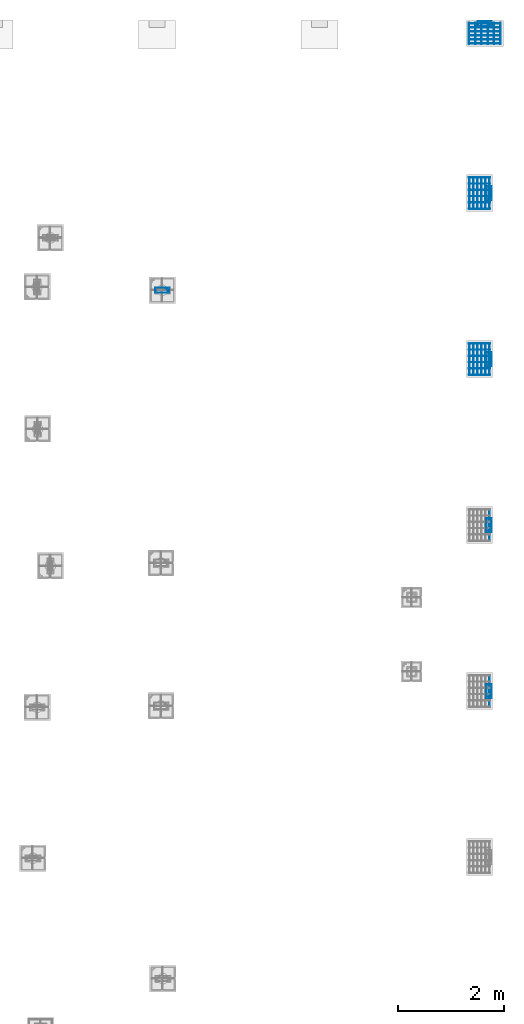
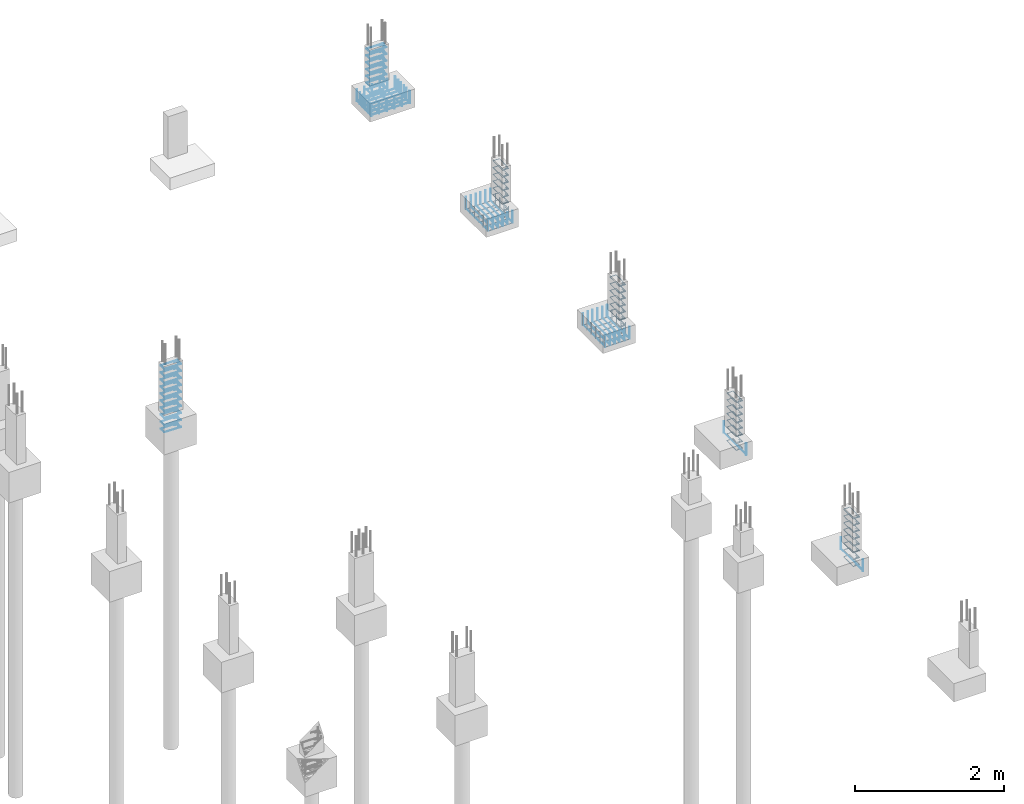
# One storey, part 116 of 119: 88 reinforcing bars.
"""IFC4 building model written with IfcOpenShell, lengths in centimetres."""

from ifc_helpers import new_model, entity, si_unit, derived_unit, frame, origin_with_axes, place, context, project, spatial, source, transform, mapped, element, save


model = new_model("IFC4")

# Units and contexts
model_context = context("Model", 3, precision=1e-05, world=origin_with_axes(), identifier="Body")
ifc_project = project(units=[si_unit("LENGTHUNIT", "METRE", prefix="CENTI"), si_unit("VOLUMEUNIT", "CUBIC_METRE"), si_unit("AREAUNIT", "SQUARE_METRE"), si_unit("POWERUNIT", "WATT"), si_unit("LUMINOUSFLUXUNIT", "LUMEN"), si_unit("ELECTRICCURRENTUNIT", "AMPERE"), si_unit("PRESSUREUNIT", "PASCAL", prefix="KILO"), si_unit("MASSUNIT", "GRAM", prefix="KILO"), si_unit("PLANEANGLEUNIT", "RADIAN"), derived_unit("VOLUMETRICFLOWRATEUNIT", [(si_unit("LENGTHUNIT", "METRE"), 3), (si_unit("TIMEUNIT", "SECOND"), -1)])], contexts=[model_context])

# Site, building, storey
site_placement = place(None, frame((-4000.0, 0.0, 0.0), z_axis=(0.0, 0.0, 1.0), x_axis=(1.0, 0.0, 0.0)))
site = spatial("IfcSite", under=ifc_project, at=site_placement, Name="PADRÃO")
building_placement = place(site_placement, frame((0.0, 0.0, -14.0)))
building = spatial("IfcBuilding", under=site, at=building_placement, Name="CRECHE PRÉ-ESCOLA TIPO 2")
storey_placement = place(building_placement, origin_with_axes())
storey = spatial("IfcBuildingStorey", under=building, at=storey_placement, Name="FUNDAÇÃO", CompositionType="ELEMENT", Elevation=-14.0)

# Reinforcing bars
shared_shape_1 = source(origin_with_axes(), model_context, "Body", "AdvancedSweptSolid", [
    entity("IfcSweptDiskSolid", entity("IfcCompositeCurve", [entity("IfcCompositeCurveSegment", "CONTINUOUS", True, entity("IfcPolyline", [entity("IfcCartesianPoint", [4.25, 21.75, 0.0]), entity("IfcCartesianPoint", [4.25, 27.75, 0.0])])), entity("IfcCompositeCurveSegment", "CONTINUOUS", True, entity("IfcPolyline", [entity("IfcCartesianPoint", [4.25, 27.75, 0.0]), entity("IfcCartesianPoint", [2.25, 27.75, 0.0])])), entity("IfcCompositeCurveSegment", "CONTINUOUS", True, entity("IfcPolyline", [entity("IfcCartesianPoint", [2.25, 27.75, 0.0]), entity("IfcCartesianPoint", [2.25, 2.25, 0.0])])), entity("IfcCompositeCurveSegment", "CONTINUOUS", True, entity("IfcPolyline", [entity("IfcCartesianPoint", [2.25, 2.25, 0.0]), entity("IfcCartesianPoint", [11.75, 2.25, 0.0])])), entity("IfcCompositeCurveSegment", "CONTINUOUS", True, entity("IfcPolyline", [entity("IfcCartesianPoint", [11.75, 2.25, 0.0]), entity("IfcCartesianPoint", [11.75, 27.75, -0.5])])), entity("IfcCompositeCurveSegment", "CONTINUOUS", True, entity("IfcPolyline", [entity("IfcCartesianPoint", [11.75, 27.75, -0.5]), entity("IfcCartesianPoint", [2.25, 27.75, -0.5])])), entity("IfcCompositeCurveSegment", "CONTINUOUS", True, entity("IfcPolyline", [entity("IfcCartesianPoint", [2.25, 27.75, -0.5]), entity("IfcCartesianPoint", [2.25, 25.75, -0.5])])), entity("IfcCompositeCurveSegment", "CONTINUOUS", True, entity("IfcPolyline", [entity("IfcCartesianPoint", [2.25, 25.75, -0.5]), entity("IfcCartesianPoint", [8.25, 25.75, -0.5])]))], False), 0.25),
])
for number, where, z_axis, x_axis, name in (
    (1, (3969.0, 4495.0, -72.3125), (0.0, 0.0, 1.0), (0.0, -1.0, 0.0), "P14 - Estribo"),
    (2, (3969.0, 4495.0, -83.4375), (0.0, 0.0, 1.0), (0.0, -1.0, 0.0), "P14 - Estribo"),
    (3, (3969.0, 4495.0, -61.1875), (0.0, 0.0, 1.0), (0.0, -1.0, 0.0), "P14 - Estribo"),
    (4, (3969.0, 4495.0, -38.9375), (0.0, 0.0, 1.0), (0.0, -1.0, 0.0), "P14 - Estribo"),
    (5, (3969.0, 4495.0, -27.8125), (0.0, 0.0, 1.0), (0.0, -1.0, 0.0), "P14 - Estribo"),
    (6, (3969.0, 4495.0, -16.6875), (0.0, 0.0, 1.0), (0.0, -1.0, 0.0), "P14 - Estribo"),
    (7, (3969.0, 4495.0, -5.5625), (0.0, 0.0, 1.0), (0.0, -1.0, 0.0), "P14 - Estribo"),
    (8, (3969.0, 4495.0, -50.0625), (0.0, 0.0, 1.0), (0.0, -1.0, 0.0), "P14 - Estribo"),
):
    element("IfcReinforcingBar", number, at=place(storey_placement, frame(where, z_axis=z_axis, x_axis=x_axis)), inside=storey, Name=name, BarLength=0.0, CrossSectionArea=1.9634954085e-05, NominalDiameter=0.5, PredefinedType="MAIN", context=model_context, shape_type="MappedRepresentation", body=[
        mapped(shared_shape_1, transform((0.0, 0.0, 0.0), scale=1.0)),
    ])
shared_shape_2 = source(origin_with_axes(), model_context, "Body", "AdvancedSweptSolid", [
    entity("IfcSweptDiskSolid", entity("IfcCompositeCurve", [entity("IfcCompositeCurveSegment", "CONTINUOUS", True, entity("IfcPolyline", [entity("IfcCartesianPoint", [0.0, 0.0, 19.6]), entity("IfcCartesianPoint", [0.0, 0.0, 0.0])])), entity("IfcCompositeCurveSegment", "CONTINUOUS", True, entity("IfcPolyline", [entity("IfcCartesianPoint", [0.0, 0.0, 0.0]), entity("IfcCartesianPoint", [39.2, 0.0, 0.0])])), entity("IfcCompositeCurveSegment", "CONTINUOUS", True, entity("IfcPolyline", [entity("IfcCartesianPoint", [39.2, 0.0, 0.0]), entity("IfcCartesianPoint", [39.2, 0.0, 19.6])]))], False), 0.4),
])
for number, where, z_axis, x_axis, name in (
    (9, (4013.6, 4489.6, -83.6), (0.0, 0.0, 1.0), (0.0, -1.0, 0.0), "P14 - Sapatas (inferior)"),
    (10, (4001.76, 4489.6, -83.6), (0.0, 0.0, 1.0), (0.0, -1.0, 0.0), "P14 - Sapatas (inferior)"),
    (11, (3989.92, 4489.6, -83.6), (0.0, 0.0, 1.0), (0.0, -1.0, 0.0), "P14 - Sapatas (inferior)"),
    (12, (3978.08, 4489.6, -83.6), (0.0, 0.0, 1.0), (0.0, -1.0, 0.0), "P14 - Sapatas (inferior)"),
    (13, (3966.24, 4489.6, -83.6), (0.0, 0.0, 1.0), (0.0, -1.0, 0.0), "P14 - Sapatas (inferior)"),
    (14, (3954.4, 4489.6, -83.6), (0.0, 0.0, 1.0), (0.0, -1.0, 0.0), "P14 - Sapatas (inferior)"),
):
    element("IfcReinforcingBar", number, at=place(storey_placement, frame(where, z_axis=z_axis, x_axis=x_axis)), inside=storey, Name=name, BarLength=0.0, CrossSectionArea=5.0265482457e-05, NominalDiameter=0.8, PredefinedType="MAIN", context=model_context, shape_type="MappedRepresentation", body=[
        mapped(shared_shape_2, transform((0.0, 0.0, 0.0), scale=1.0)),
    ])
shared_shape_3 = source(origin_with_axes(), model_context, "Body", "AdvancedSweptSolid", [
    entity("IfcSweptDiskSolid", entity("IfcCompositeCurve", [entity("IfcCompositeCurveSegment", "CONTINUOUS", True, entity("IfcPolyline", [entity("IfcCartesianPoint", [0.0, 0.0, 18.8]), entity("IfcCartesianPoint", [0.0, 0.0, 0.0])])), entity("IfcCompositeCurveSegment", "CONTINUOUS", True, entity("IfcPolyline", [entity("IfcCartesianPoint", [0.0, 0.0, 0.0]), entity("IfcCartesianPoint", [0.0, 59.2, 0.0])])), entity("IfcCompositeCurveSegment", "CONTINUOUS", True, entity("IfcPolyline", [entity("IfcCartesianPoint", [0.0, 59.2, 0.0]), entity("IfcCartesianPoint", [0.0, 59.2, 18.8])]))], False), 0.4),
])
for number, where, z_axis, x_axis, name in (
    (15, (3954.4, 4458.72, -82.8), (0.0, 0.0, 1.0), (0.0, -1.0, 0.0), "P14 - Sapatas (inferior)"),
    (16, (3954.4, 4481.28, -82.8), (0.0, 0.0, 1.0), (0.0, -1.0, 0.0), "P14 - Sapatas (inferior)"),
    (17, (3954.4, 4473.76, -82.8), (0.0, 0.0, 1.0), (0.0, -1.0, 0.0), "P14 - Sapatas (inferior)"),
    (18, (3954.4, 4466.24, -82.8), (0.0, 0.0, 1.0), (0.0, -1.0, 0.0), "P14 - Sapatas (inferior)"),
    (19, (3954.4, 4451.2, -82.8), (0.0, 0.0, 1.0), (0.0, -1.0, 0.0), "P14 - Sapatas (inferior)"),
    (20, (3954.4, 4488.8, -82.8), (0.0, 0.0, 1.0), (0.0, -1.0, 0.0), "P14 - Sapatas (inferior)"),
):
    element("IfcReinforcingBar", number, at=place(storey_placement, frame(where, z_axis=z_axis, x_axis=x_axis)), inside=storey, Name=name, BarLength=0.0, CrossSectionArea=5.0265482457e-05, NominalDiameter=0.8, PredefinedType="MAIN", context=model_context, shape_type="MappedRepresentation", body=[
        mapped(shared_shape_3, transform((0.0, 0.0, 0.0), scale=1.0)),
    ])
shared_shape_4 = source(origin_with_axes(), model_context, "Body", "AdvancedSweptSolid", [
    entity("IfcSweptDiskSolid", entity("IfcCompositeCurve", [entity("IfcCompositeCurveSegment", "CONTINUOUS", True, entity("IfcPolyline", [entity("IfcCartesianPoint", [4.25, 21.75, 0.0]), entity("IfcCartesianPoint", [4.25, 27.75, 0.0])])), entity("IfcCompositeCurveSegment", "CONTINUOUS", True, entity("IfcPolyline", [entity("IfcCartesianPoint", [4.25, 27.75, 0.0]), entity("IfcCartesianPoint", [2.25, 27.75, 0.0])])), entity("IfcCompositeCurveSegment", "CONTINUOUS", True, entity("IfcPolyline", [entity("IfcCartesianPoint", [2.25, 27.75, 0.0]), entity("IfcCartesianPoint", [2.25, 2.25, 0.0])])), entity("IfcCompositeCurveSegment", "CONTINUOUS", True, entity("IfcPolyline", [entity("IfcCartesianPoint", [2.25, 2.25, 0.0]), entity("IfcCartesianPoint", [11.75, 2.25, 0.0])])), entity("IfcCompositeCurveSegment", "CONTINUOUS", True, entity("IfcPolyline", [entity("IfcCartesianPoint", [11.75, 2.25, 0.0]), entity("IfcCartesianPoint", [11.75, 27.75, -0.5])])), entity("IfcCompositeCurveSegment", "CONTINUOUS", True, entity("IfcPolyline", [entity("IfcCartesianPoint", [11.75, 27.75, -0.5]), entity("IfcCartesianPoint", [2.25, 27.75, -0.5])])), entity("IfcCompositeCurveSegment", "CONTINUOUS", True, entity("IfcPolyline", [entity("IfcCartesianPoint", [2.25, 27.75, -0.5]), entity("IfcCartesianPoint", [2.25, 25.75, -0.5])])), entity("IfcCompositeCurveSegment", "CONTINUOUS", True, entity("IfcPolyline", [entity("IfcCartesianPoint", [2.25, 25.75, -0.5]), entity("IfcCartesianPoint", [8.25, 25.75, -0.5])]))], False), 0.25),
])
for number, where, z_axis, x_axis, name in (
    (21, (3999.0, 3243.0, -83.4375), (0.0, 0.0, 1.0), (-1.0, 0.0, 0.0), "P57 - Estribo"),
    (22, (3999.0, 3243.0, -72.3125), (0.0, 0.0, 1.0), (-1.0, 0.0, 0.0), "P57 - Estribo"),
    (23, (3999.0, 3243.0, -61.1875), (0.0, 0.0, 1.0), (-1.0, 0.0, 0.0), "P57 - Estribo"),
    (24, (3999.0, 3243.0, -50.0625), (0.0, 0.0, 1.0), (-1.0, 0.0, 0.0), "P57 - Estribo"),
    (25, (3999.0, 3243.0, -38.9375), (0.0, 0.0, 1.0), (-1.0, 0.0, 0.0), "P57 - Estribo"),
    (26, (3999.0, 3243.0, -16.6875), (0.0, 0.0, 1.0), (-1.0, 0.0, 0.0), "P57 - Estribo"),
    (27, (3999.0, 3243.0, -5.5625), (0.0, 0.0, 1.0), (-1.0, 0.0, 0.0), "P57 - Estribo"),
    (28, (3999.0, 3243.0, -27.8125), (0.0, 0.0, 1.0), (-1.0, 0.0, 0.0), "P57 - Estribo"),
):
    element("IfcReinforcingBar", number, at=place(storey_placement, frame(where, z_axis=z_axis, x_axis=x_axis)), inside=storey, Name=name, BarLength=0.0, CrossSectionArea=1.9634954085e-05, NominalDiameter=0.5, PredefinedType="MAIN", context=model_context, shape_type="MappedRepresentation", body=[
        mapped(shared_shape_4, transform((0.0, 0.0, 0.0), scale=1.0)),
    ])
shared_shape_5 = source(origin_with_axes(), model_context, "Body", "AdvancedSweptSolid", [
    entity("IfcSweptDiskSolid", entity("IfcCompositeCurve", [entity("IfcCompositeCurveSegment", "CONTINUOUS", True, entity("IfcPolyline", [entity("IfcCartesianPoint", [0.0, 0.0, 18.8]), entity("IfcCartesianPoint", [0.0, 0.0, 0.0])])), entity("IfcCompositeCurveSegment", "CONTINUOUS", True, entity("IfcPolyline", [entity("IfcCartesianPoint", [0.0, 0.0, 0.0]), entity("IfcCartesianPoint", [0.0, 59.2, 0.0])])), entity("IfcCompositeCurveSegment", "CONTINUOUS", True, entity("IfcPolyline", [entity("IfcCartesianPoint", [0.0, 59.2, 0.0]), entity("IfcCartesianPoint", [0.0, 59.2, 18.8])]))], False), 0.4),
])
reinforcing_bar_1_placement = place(storey_placement, frame((3992.8, 3257.6, -82.8), z_axis=(0.0, 0.0, 1.0), x_axis=(-1.0, 0.0, 0.0)))
element("IfcReinforcingBar", 29, at=reinforcing_bar_1_placement, inside=storey, Name="P57 - Sapatas (inferior)", BarLength=0.0, CrossSectionArea=5.0265482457e-05, NominalDiameter=0.8, PredefinedType="MAIN", context=model_context, shape_type="MappedRepresentation", body=[
    mapped(shared_shape_5, transform((0.0, 0.0, 0.0), scale=1.0)),
])
shared_shape_6 = source(origin_with_axes(), model_context, "Body", "AdvancedSweptSolid", [
    entity("IfcSweptDiskSolid", entity("IfcCompositeCurve", [entity("IfcCompositeCurveSegment", "CONTINUOUS", True, entity("IfcPolyline", [entity("IfcCartesianPoint", [4.25, 21.75, 0.0]), entity("IfcCartesianPoint", [4.25, 27.75, 0.0])])), entity("IfcCompositeCurveSegment", "CONTINUOUS", True, entity("IfcPolyline", [entity("IfcCartesianPoint", [4.25, 27.75, 0.0]), entity("IfcCartesianPoint", [2.25, 27.75, 0.0])])), entity("IfcCompositeCurveSegment", "CONTINUOUS", True, entity("IfcPolyline", [entity("IfcCartesianPoint", [2.25, 27.75, 0.0]), entity("IfcCartesianPoint", [2.25, 2.25, 0.0])])), entity("IfcCompositeCurveSegment", "CONTINUOUS", True, entity("IfcPolyline", [entity("IfcCartesianPoint", [2.25, 2.25, 0.0]), entity("IfcCartesianPoint", [11.75, 2.25, 0.0])])), entity("IfcCompositeCurveSegment", "CONTINUOUS", True, entity("IfcPolyline", [entity("IfcCartesianPoint", [11.75, 2.25, 0.0]), entity("IfcCartesianPoint", [11.75, 27.75, -0.5])])), entity("IfcCompositeCurveSegment", "CONTINUOUS", True, entity("IfcPolyline", [entity("IfcCartesianPoint", [11.75, 27.75, -0.5]), entity("IfcCartesianPoint", [2.25, 27.75, -0.5])])), entity("IfcCompositeCurveSegment", "CONTINUOUS", True, entity("IfcPolyline", [entity("IfcCartesianPoint", [2.25, 27.75, -0.5]), entity("IfcCartesianPoint", [2.25, 25.75, -0.5])])), entity("IfcCompositeCurveSegment", "CONTINUOUS", True, entity("IfcPolyline", [entity("IfcCartesianPoint", [2.25, 25.75, -0.5]), entity("IfcCartesianPoint", [8.25, 25.75, -0.5])]))], False), 0.25),
])
for number, where, z_axis, x_axis, name in (
    (30, (3999.0, 3556.5, -38.9375), (0.0, 0.0, 1.0), (-1.0, 0.0, 0.0), "P38 - Estribo"),
    (31, (3999.0, 3556.5, -27.8125), (0.0, 0.0, 1.0), (-1.0, 0.0, 0.0), "P38 - Estribo"),
    (32, (3999.0, 3556.5, -16.6875), (0.0, 0.0, 1.0), (-1.0, 0.0, 0.0), "P38 - Estribo"),
    (33, (3999.0, 3556.5, -61.1875), (0.0, 0.0, 1.0), (-1.0, 0.0, 0.0), "P38 - Estribo"),
    (34, (3999.0, 3556.5, -5.5625), (0.0, 0.0, 1.0), (-1.0, 0.0, 0.0), "P38 - Estribo"),
    (35, (3999.0, 3556.5, -50.0625), (0.0, 0.0, 1.0), (-1.0, 0.0, 0.0), "P38 - Estribo"),
    (36, (3999.0, 3556.5, -83.4375), (0.0, 0.0, 1.0), (-1.0, 0.0, 0.0), "P38 - Estribo"),
    (37, (3999.0, 3556.5, -72.3125), (0.0, 0.0, 1.0), (-1.0, 0.0, 0.0), "P38 - Estribo"),
):
    element("IfcReinforcingBar", number, at=place(storey_placement, frame(where, z_axis=z_axis, x_axis=x_axis)), inside=storey, Name=name, BarLength=0.0, CrossSectionArea=1.9634954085e-05, NominalDiameter=0.5, PredefinedType="MAIN", context=model_context, shape_type="MappedRepresentation", body=[
        mapped(shared_shape_6, transform((0.0, 0.0, 0.0), scale=1.0)),
    ])
shared_shape_7 = source(origin_with_axes(), model_context, "Body", "AdvancedSweptSolid", [
    entity("IfcSweptDiskSolid", entity("IfcCompositeCurve", [entity("IfcCompositeCurveSegment", "CONTINUOUS", True, entity("IfcPolyline", [entity("IfcCartesianPoint", [0.0, 0.0, 18.8]), entity("IfcCartesianPoint", [0.0, 0.0, 0.0])])), entity("IfcCompositeCurveSegment", "CONTINUOUS", True, entity("IfcPolyline", [entity("IfcCartesianPoint", [0.0, 0.0, 0.0]), entity("IfcCartesianPoint", [0.0, 59.2, 0.0])])), entity("IfcCompositeCurveSegment", "CONTINUOUS", True, entity("IfcPolyline", [entity("IfcCartesianPoint", [0.0, 59.2, 0.0]), entity("IfcCartesianPoint", [0.0, 59.2, 18.8])]))], False), 0.4),
])
reinforcing_bar_2_placement = place(storey_placement, frame((3992.8, 3571.1, -82.8), z_axis=(0.0, 0.0, 1.0), x_axis=(-1.0, 0.0, 0.0)))
element("IfcReinforcingBar", 38, at=reinforcing_bar_2_placement, inside=storey, Name="P38 - Sapatas (inferior)", BarLength=0.0, CrossSectionArea=5.0265482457e-05, NominalDiameter=0.8, PredefinedType="MAIN", context=model_context, shape_type="MappedRepresentation", body=[
    mapped(shared_shape_7, transform((0.0, 0.0, 0.0), scale=1.0)),
])
shared_shape_8 = source(origin_with_axes(), model_context, "Body", "AdvancedSweptSolid", [
    entity("IfcSweptDiskSolid", entity("IfcCompositeCurve", [entity("IfcCompositeCurveSegment", "CONTINUOUS", True, entity("IfcPolyline", [entity("IfcCartesianPoint", [4.25, 21.75, 0.0]), entity("IfcCartesianPoint", [4.25, 27.75, 0.0])])), entity("IfcCompositeCurveSegment", "CONTINUOUS", True, entity("IfcPolyline", [entity("IfcCartesianPoint", [4.25, 27.75, 0.0]), entity("IfcCartesianPoint", [2.25, 27.75, 0.0])])), entity("IfcCompositeCurveSegment", "CONTINUOUS", True, entity("IfcPolyline", [entity("IfcCartesianPoint", [2.25, 27.75, 0.0]), entity("IfcCartesianPoint", [2.25, 2.25, 0.0])])), entity("IfcCompositeCurveSegment", "CONTINUOUS", True, entity("IfcPolyline", [entity("IfcCartesianPoint", [2.25, 2.25, 0.0]), entity("IfcCartesianPoint", [11.75, 2.25, 0.0])])), entity("IfcCompositeCurveSegment", "CONTINUOUS", True, entity("IfcPolyline", [entity("IfcCartesianPoint", [11.75, 2.25, 0.0]), entity("IfcCartesianPoint", [11.75, 27.75, -0.5])])), entity("IfcCompositeCurveSegment", "CONTINUOUS", True, entity("IfcPolyline", [entity("IfcCartesianPoint", [11.75, 27.75, -0.5]), entity("IfcCartesianPoint", [2.25, 27.75, -0.5])])), entity("IfcCompositeCurveSegment", "CONTINUOUS", True, entity("IfcPolyline", [entity("IfcCartesianPoint", [2.25, 27.75, -0.5]), entity("IfcCartesianPoint", [2.25, 25.75, -0.5])])), entity("IfcCompositeCurveSegment", "CONTINUOUS", True, entity("IfcPolyline", [entity("IfcCartesianPoint", [2.25, 25.75, -0.5]), entity("IfcCartesianPoint", [8.25, 25.75, -0.5])]))], False), 0.25),
])
for number, where, z_axis, x_axis, name in (
    (39, (3999.0, 3870.0, -16.6875), (0.0, 0.0, 1.0), (-1.0, 0.0, 0.0), "P30 - Estribo"),
    (40, (3999.0, 3870.0, -5.5625), (0.0, 0.0, 1.0), (-1.0, 0.0, 0.0), "P30 - Estribo"),
    (41, (3999.0, 3870.0, -83.4375), (0.0, 0.0, 1.0), (-1.0, 0.0, 0.0), "P30 - Estribo"),
    (42, (3999.0, 3870.0, -72.3125), (0.0, 0.0, 1.0), (-1.0, 0.0, 0.0), "P30 - Estribo"),
    (43, (3999.0, 3870.0, -61.1875), (0.0, 0.0, 1.0), (-1.0, 0.0, 0.0), "P30 - Estribo"),
    (44, (3999.0, 3870.0, -38.9375), (0.0, 0.0, 1.0), (-1.0, 0.0, 0.0), "P30 - Estribo"),
    (45, (3999.0, 3870.0, -50.0625), (0.0, 0.0, 1.0), (-1.0, 0.0, 0.0), "P30 - Estribo"),
    (46, (3999.0, 3870.0, -27.8125), (0.0, 0.0, 1.0), (-1.0, 0.0, 0.0), "P30 - Estribo"),
):
    element("IfcReinforcingBar", number, at=place(storey_placement, frame(where, z_axis=z_axis, x_axis=x_axis)), inside=storey, Name=name, BarLength=0.0, CrossSectionArea=1.9634954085e-05, NominalDiameter=0.5, PredefinedType="MAIN", context=model_context, shape_type="MappedRepresentation", body=[
        mapped(shared_shape_8, transform((0.0, 0.0, 0.0), scale=1.0)),
    ])
shared_shape_9 = source(origin_with_axes(), model_context, "Body", "AdvancedSweptSolid", [
    entity("IfcSweptDiskSolid", entity("IfcCompositeCurve", [entity("IfcCompositeCurveSegment", "CONTINUOUS", True, entity("IfcPolyline", [entity("IfcCartesianPoint", [0.0, 0.0, 19.6]), entity("IfcCartesianPoint", [0.0, 0.0, 0.0])])), entity("IfcCompositeCurveSegment", "CONTINUOUS", True, entity("IfcPolyline", [entity("IfcCartesianPoint", [0.0, 0.0, 0.0]), entity("IfcCartesianPoint", [39.2, 0.0, 0.0])])), entity("IfcCompositeCurveSegment", "CONTINUOUS", True, entity("IfcPolyline", [entity("IfcCartesianPoint", [39.2, 0.0, 0.0]), entity("IfcCartesianPoint", [39.2, 0.0, 19.6])]))], False), 0.4),
])
for number, where, z_axis, x_axis, name in (
    (47, (3993.6, 3872.76, -83.6), (0.0, 0.0, 1.0), (-1.0, 0.0, 0.0), "P30 - Sapatas (inferior)"),
    (48, (3993.6, 3884.6, -83.6), (0.0, 0.0, 1.0), (-1.0, 0.0, 0.0), "P30 - Sapatas (inferior)"),
    (49, (3993.6, 3860.92, -83.6), (0.0, 0.0, 1.0), (-1.0, 0.0, 0.0), "P30 - Sapatas (inferior)"),
    (50, (3993.6, 3849.08, -83.6), (0.0, 0.0, 1.0), (-1.0, 0.0, 0.0), "P30 - Sapatas (inferior)"),
    (51, (3993.6, 3837.24, -83.6), (0.0, 0.0, 1.0), (-1.0, 0.0, 0.0), "P30 - Sapatas (inferior)"),
    (52, (3993.6, 3825.4, -83.6), (0.0, 0.0, 1.0), (-1.0, 0.0, 0.0), "P30 - Sapatas (inferior)"),
):
    element("IfcReinforcingBar", number, at=place(storey_placement, frame(where, z_axis=z_axis, x_axis=x_axis)), inside=storey, Name=name, BarLength=0.0, CrossSectionArea=5.0265482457e-05, NominalDiameter=0.8, PredefinedType="MAIN", context=model_context, shape_type="MappedRepresentation", body=[
        mapped(shared_shape_9, transform((0.0, 0.0, 0.0), scale=1.0)),
    ])
shared_shape_10 = source(origin_with_axes(), model_context, "Body", "AdvancedSweptSolid", [
    entity("IfcSweptDiskSolid", entity("IfcCompositeCurve", [entity("IfcCompositeCurveSegment", "CONTINUOUS", True, entity("IfcPolyline", [entity("IfcCartesianPoint", [0.0, 0.0, 18.8]), entity("IfcCartesianPoint", [0.0, 0.0, 0.0])])), entity("IfcCompositeCurveSegment", "CONTINUOUS", True, entity("IfcPolyline", [entity("IfcCartesianPoint", [0.0, 0.0, 0.0]), entity("IfcCartesianPoint", [0.0, 59.2, 0.0])])), entity("IfcCompositeCurveSegment", "CONTINUOUS", True, entity("IfcPolyline", [entity("IfcCartesianPoint", [0.0, 59.2, 0.0]), entity("IfcCartesianPoint", [0.0, 59.2, 18.8])]))], False), 0.4),
])
for number, where, z_axis, x_axis, name in (
    (53, (3977.76, 3884.6, -82.8), (0.0, 0.0, 1.0), (-1.0, 0.0, 0.0), "P30 - Sapatas (inferior)"),
    (54, (3970.24, 3884.6, -82.8), (0.0, 0.0, 1.0), (-1.0, 0.0, 0.0), "P30 - Sapatas (inferior)"),
    (55, (3962.72, 3884.6, -82.8), (0.0, 0.0, 1.0), (-1.0, 0.0, 0.0), "P30 - Sapatas (inferior)"),
    (56, (3955.2, 3884.6, -82.8), (0.0, 0.0, 1.0), (-1.0, 0.0, 0.0), "P30 - Sapatas (inferior)"),
    (57, (3992.8, 3884.6, -82.8), (0.0, 0.0, 1.0), (-1.0, 0.0, 0.0), "P30 - Sapatas (inferior)"),
    (58, (3985.28, 3884.6, -82.8), (0.0, 0.0, 1.0), (-1.0, 0.0, 0.0), "P30 - Sapatas (inferior)"),
):
    element("IfcReinforcingBar", number, at=place(storey_placement, frame(where, z_axis=z_axis, x_axis=x_axis)), inside=storey, Name=name, BarLength=0.0, CrossSectionArea=5.0265482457e-05, NominalDiameter=0.8, PredefinedType="MAIN", context=model_context, shape_type="MappedRepresentation", body=[
        mapped(shared_shape_10, transform((0.0, 0.0, 0.0), scale=1.0)),
    ])
shared_shape_11 = source(origin_with_axes(), model_context, "Body", "AdvancedSweptSolid", [
    entity("IfcSweptDiskSolid", entity("IfcCompositeCurve", [entity("IfcCompositeCurveSegment", "CONTINUOUS", True, entity("IfcPolyline", [entity("IfcCartesianPoint", [4.25, 21.75, 0.0]), entity("IfcCartesianPoint", [4.25, 27.75, 0.0])])), entity("IfcCompositeCurveSegment", "CONTINUOUS", True, entity("IfcPolyline", [entity("IfcCartesianPoint", [4.25, 27.75, 0.0]), entity("IfcCartesianPoint", [2.25, 27.75, 0.0])])), entity("IfcCompositeCurveSegment", "CONTINUOUS", True, entity("IfcPolyline", [entity("IfcCartesianPoint", [2.25, 27.75, 0.0]), entity("IfcCartesianPoint", [2.25, 2.25, 0.0])])), entity("IfcCompositeCurveSegment", "CONTINUOUS", True, entity("IfcPolyline", [entity("IfcCartesianPoint", [2.25, 2.25, 0.0]), entity("IfcCartesianPoint", [11.75, 2.25, 0.0])])), entity("IfcCompositeCurveSegment", "CONTINUOUS", True, entity("IfcPolyline", [entity("IfcCartesianPoint", [11.75, 2.25, 0.0]), entity("IfcCartesianPoint", [11.75, 27.75, -0.5])])), entity("IfcCompositeCurveSegment", "CONTINUOUS", True, entity("IfcPolyline", [entity("IfcCartesianPoint", [11.75, 27.75, -0.5]), entity("IfcCartesianPoint", [2.25, 27.75, -0.5])])), entity("IfcCompositeCurveSegment", "CONTINUOUS", True, entity("IfcPolyline", [entity("IfcCartesianPoint", [2.25, 27.75, -0.5]), entity("IfcCartesianPoint", [2.25, 25.75, -0.5])])), entity("IfcCompositeCurveSegment", "CONTINUOUS", True, entity("IfcPolyline", [entity("IfcCartesianPoint", [2.25, 25.75, -0.5]), entity("IfcCartesianPoint", [8.25, 25.75, -0.5])]))], False), 0.25),
])
for number, where, z_axis, x_axis, name in (
    (59, (3999.0, 4183.5, -61.1875), (0.0, 0.0, 1.0), (-1.0, 0.0, 0.0), "P16 - Estribo"),
    (60, (3999.0, 4183.5, -72.3125), (0.0, 0.0, 1.0), (-1.0, 0.0, 0.0), "P16 - Estribo"),
    (61, (3999.0, 4183.5, -83.4375), (0.0, 0.0, 1.0), (-1.0, 0.0, 0.0), "P16 - Estribo"),
    (62, (3999.0, 4183.5, -5.5625), (0.0, 0.0, 1.0), (-1.0, 0.0, 0.0), "P16 - Estribo"),
    (63, (3999.0, 4183.5, -16.6875), (0.0, 0.0, 1.0), (-1.0, 0.0, 0.0), "P16 - Estribo"),
    (64, (3999.0, 4183.5, -50.0625), (0.0, 0.0, 1.0), (-1.0, 0.0, 0.0), "P16 - Estribo"),
    (65, (3999.0, 4183.5, -38.9375), (0.0, 0.0, 1.0), (-1.0, 0.0, 0.0), "P16 - Estribo"),
    (66, (3999.0, 4183.5, -27.8125), (0.0, 0.0, 1.0), (-1.0, 0.0, 0.0), "P16 - Estribo"),
):
    element("IfcReinforcingBar", number, at=place(storey_placement, frame(where, z_axis=z_axis, x_axis=x_axis)), inside=storey, Name=name, BarLength=0.0, CrossSectionArea=1.9634954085e-05, NominalDiameter=0.5, PredefinedType="MAIN", context=model_context, shape_type="MappedRepresentation", body=[
        mapped(shared_shape_11, transform((0.0, 0.0, 0.0), scale=1.0)),
    ])
shared_shape_12 = source(origin_with_axes(), model_context, "Body", "AdvancedSweptSolid", [
    entity("IfcSweptDiskSolid", entity("IfcCompositeCurve", [entity("IfcCompositeCurveSegment", "CONTINUOUS", True, entity("IfcPolyline", [entity("IfcCartesianPoint", [0.0, 0.0, 19.6]), entity("IfcCartesianPoint", [0.0, 0.0, 0.0])])), entity("IfcCompositeCurveSegment", "CONTINUOUS", True, entity("IfcPolyline", [entity("IfcCartesianPoint", [0.0, 0.0, 0.0]), entity("IfcCartesianPoint", [39.2, 0.0, 0.0])])), entity("IfcCompositeCurveSegment", "CONTINUOUS", True, entity("IfcPolyline", [entity("IfcCartesianPoint", [39.2, 0.0, 0.0]), entity("IfcCartesianPoint", [39.2, 0.0, 19.6])]))], False), 0.4),
])
for number, where, z_axis, x_axis, name in (
    (67, (3993.6, 4162.58, -83.6), (0.0, 0.0, 1.0), (-1.0, 0.0, 0.0), "P16 - Sapatas (inferior)"),
    (68, (3993.6, 4186.26, -83.6), (0.0, 0.0, 1.0), (-1.0, 0.0, 0.0), "P16 - Sapatas (inferior)"),
    (69, (3993.6, 4198.1, -83.6), (0.0, 0.0, 1.0), (-1.0, 0.0, 0.0), "P16 - Sapatas (inferior)"),
    (70, (3993.6, 4174.42, -83.6), (0.0, 0.0, 1.0), (-1.0, 0.0, 0.0), "P16 - Sapatas (inferior)"),
    (71, (3993.6, 4150.74, -83.6), (0.0, 0.0, 1.0), (-1.0, 0.0, 0.0), "P16 - Sapatas (inferior)"),
    (72, (3993.6, 4138.9, -83.6), (0.0, 0.0, 1.0), (-1.0, 0.0, 0.0), "P16 - Sapatas (inferior)"),
):
    element("IfcReinforcingBar", number, at=place(storey_placement, frame(where, z_axis=z_axis, x_axis=x_axis)), inside=storey, Name=name, BarLength=0.0, CrossSectionArea=5.0265482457e-05, NominalDiameter=0.8, PredefinedType="MAIN", context=model_context, shape_type="MappedRepresentation", body=[
        mapped(shared_shape_12, transform((0.0, 0.0, 0.0), scale=1.0)),
    ])
shared_shape_13 = source(origin_with_axes(), model_context, "Body", "AdvancedSweptSolid", [
    entity("IfcSweptDiskSolid", entity("IfcCompositeCurve", [entity("IfcCompositeCurveSegment", "CONTINUOUS", True, entity("IfcPolyline", [entity("IfcCartesianPoint", [0.0, 0.0, 18.8]), entity("IfcCartesianPoint", [0.0, 0.0, 0.0])])), entity("IfcCompositeCurveSegment", "CONTINUOUS", True, entity("IfcPolyline", [entity("IfcCartesianPoint", [0.0, 0.0, 0.0]), entity("IfcCartesianPoint", [0.0, 59.2, 0.0])])), entity("IfcCompositeCurveSegment", "CONTINUOUS", True, entity("IfcPolyline", [entity("IfcCartesianPoint", [0.0, 59.2, 0.0]), entity("IfcCartesianPoint", [0.0, 59.2, 18.8])]))], False), 0.4),
])
for number, where, z_axis, x_axis, name in (
    (73, (3985.28, 4198.1, -82.8), (0.0, 0.0, 1.0), (-1.0, 0.0, 0.0), "P16 - Sapatas (inferior)"),
    (74, (3977.76, 4198.1, -82.8), (0.0, 0.0, 1.0), (-1.0, 0.0, 0.0), "P16 - Sapatas (inferior)"),
    (75, (3992.8, 4198.1, -82.8), (0.0, 0.0, 1.0), (-1.0, 0.0, 0.0), "P16 - Sapatas (inferior)"),
    (76, (3955.2, 4198.1, -82.8), (0.0, 0.0, 1.0), (-1.0, 0.0, 0.0), "P16 - Sapatas (inferior)"),
    (77, (3962.72, 4198.1, -82.8), (0.0, 0.0, 1.0), (-1.0, 0.0, 0.0), "P16 - Sapatas (inferior)"),
    (78, (3970.24, 4198.1, -82.8), (0.0, 0.0, 1.0), (-1.0, 0.0, 0.0), "P16 - Sapatas (inferior)"),
):
    element("IfcReinforcingBar", number, at=place(storey_placement, frame(where, z_axis=z_axis, x_axis=x_axis)), inside=storey, Name=name, BarLength=0.0, CrossSectionArea=5.0265482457e-05, NominalDiameter=0.8, PredefinedType="MAIN", context=model_context, shape_type="MappedRepresentation", body=[
        mapped(shared_shape_13, transform((0.0, 0.0, 0.0), scale=1.0)),
    ])
shared_shape_14 = source(origin_with_axes(), model_context, "Body", "AdvancedSweptSolid", [
    entity("IfcSweptDiskSolid", entity("IfcCompositeCurve", [entity("IfcCompositeCurveSegment", "CONTINUOUS", True, entity("IfcPolyline", [entity("IfcCartesianPoint", [4.25, 21.75, 0.0]), entity("IfcCartesianPoint", [4.25, 27.75, 0.0])])), entity("IfcCompositeCurveSegment", "CONTINUOUS", True, entity("IfcPolyline", [entity("IfcCartesianPoint", [4.25, 27.75, 0.0]), entity("IfcCartesianPoint", [2.25, 27.75, 0.0])])), entity("IfcCompositeCurveSegment", "CONTINUOUS", True, entity("IfcPolyline", [entity("IfcCartesianPoint", [2.25, 27.75, 0.0]), entity("IfcCartesianPoint", [2.25, 2.25, 0.0])])), entity("IfcCompositeCurveSegment", "CONTINUOUS", True, entity("IfcPolyline", [entity("IfcCartesianPoint", [2.25, 2.25, 0.0]), entity("IfcCartesianPoint", [11.75, 2.25, 0.0])])), entity("IfcCompositeCurveSegment", "CONTINUOUS", True, entity("IfcPolyline", [entity("IfcCartesianPoint", [11.75, 2.25, 0.0]), entity("IfcCartesianPoint", [11.75, 27.75, -0.5])])), entity("IfcCompositeCurveSegment", "CONTINUOUS", True, entity("IfcPolyline", [entity("IfcCartesianPoint", [11.75, 27.75, -0.5]), entity("IfcCartesianPoint", [2.25, 27.75, -0.5])])), entity("IfcCompositeCurveSegment", "CONTINUOUS", True, entity("IfcPolyline", [entity("IfcCartesianPoint", [2.25, 27.75, -0.5]), entity("IfcCartesianPoint", [2.25, 25.75, -0.5])])), entity("IfcCompositeCurveSegment", "CONTINUOUS", True, entity("IfcPolyline", [entity("IfcCartesianPoint", [2.25, 25.75, -0.5]), entity("IfcCartesianPoint", [8.25, 25.75, -0.5])]))], False), 0.25),
])
for number, where, z_axis, x_axis, name in (
    (79, (3360.0, 3992.01, -86.25), (0.0, 0.0, 1.0), (0.0, -1.0, 0.0), "P28 - Estribo"),
    (80, (3360.0, 3992.01, -74.75), (0.0, 0.0, 1.0), (0.0, -1.0, 0.0), "P28 - Estribo"),
    (81, (3360.0, 3992.01, -63.25), (0.0, 0.0, 1.0), (0.0, -1.0, 0.0), "P28 - Estribo"),
    (82, (3360.0, 3992.01, -51.75), (0.0, 0.0, 1.0), (0.0, -1.0, 0.0), "P28 - Estribo"),
    (83, (3360.0, 3992.01, -40.25), (0.0, 0.0, 1.0), (0.0, -1.0, 0.0), "P28 - Estribo"),
    (84, (3360.0, 3992.01, -28.75), (0.0, 0.0, 1.0), (0.0, -1.0, 0.0), "P28 - Estribo"),
    (85, (3360.0, 3992.01, -17.25), (0.0, 0.0, 1.0), (0.0, -1.0, 0.0), "P28 - Estribo"),
    (86, (3360.0, 3992.01, -5.75), (0.0, 0.0, 1.0), (0.0, -1.0, 0.0), "P28 - Estribo"),
    (87, (3360.0, 3992.01, -109.25), (0.0, 0.0, 1.0), (0.0, -1.0, 0.0), "P28 - Estribo"),
    (88, (3360.0, 3992.01, -97.75), (0.0, 0.0, 1.0), (0.0, -1.0, 0.0), "P28 - Estribo"),
):
    element("IfcReinforcingBar", number, at=place(storey_placement, frame(where, z_axis=z_axis, x_axis=x_axis)), inside=storey, Name=name, BarLength=0.0, CrossSectionArea=1.9634954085e-05, NominalDiameter=0.5, PredefinedType="MAIN", context=model_context, shape_type="MappedRepresentation", body=[
        mapped(shared_shape_14, transform((0.0, 0.0, 0.0), scale=1.0)),
    ])

save(model, "model.ifc")
